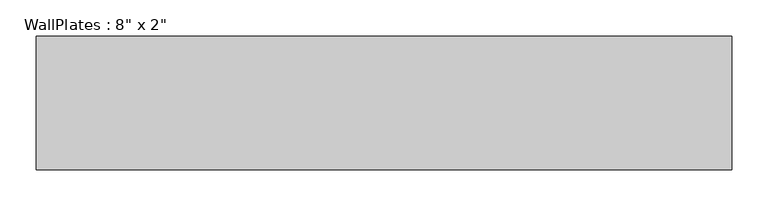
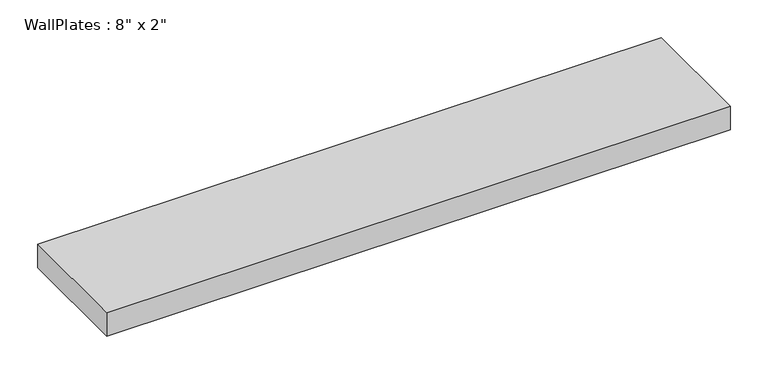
"""IFC4 building model written with IfcOpenShell, lengths in millimetres: beam geometry."""

from ifc_helpers import new_model, si_unit, frame, origin, place, context, project, spatial, polyline, outline, extrude, source, transform, mapped, element, save


def beam_837af8cf(model_context):
    return source(origin(), model_context, "Body", "SweptSolid", [
        extrude(outline(polyline([(-480.05, -92.075), (-480.05, 92.075), (480.05, 92.075), (480.05, -92.075), (-480.05, -92.075)])), frame((0.0, 0.0, -19.05), z_axis=(0.0, 0.0, 1.0), x_axis=(1.0, 0.0, 0.0)), (0.0, 0.0, 1.0), 38.1),
    ])


if __name__ == "__main__":
    model = new_model("IFC4")
    model_context = context("Model", 3, world=origin())
    ifc_project = project(units=[si_unit("LENGTHUNIT", "METRE", prefix="MILLI")], contexts=[model_context])
    site = spatial("IfcSite", under=ifc_project)
    building = spatial("IfcBuilding", under=site)
    placement = place(None, origin())
    beam_shape = beam_837af8cf(model_context)
    element("IfcBeam", 1, ObjectType="WallPlates : 8\" x 2\"", at=placement, inside=building, context=model_context, shape_type="MappedRepresentation", body=[
        mapped(beam_shape, transform((0.0, 0.0, 0.0), x_axis=(1.0, 0.0, 0.0), y_axis=(0.0, 1.0, 0.0), z_axis=(0.0, 0.0, 1.0))),
    ])
    save(model, "model.ifc")
